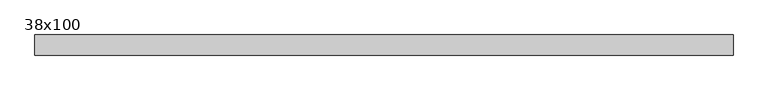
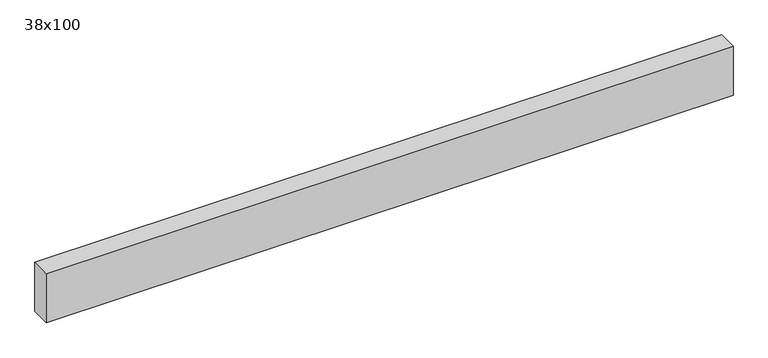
"""IFC4 building model written with IfcOpenShell, lengths in millimetres: beam geometry, Poutre - Bois de construction de dimensions courantes : 38x100."""

import ifcopenshell
import ifcopenshell.guid

model = None  # the IFC model being written
_history = None  # IfcOwnerHistory: only IFC2X3 demands one
_inside = {}  # id of a spatial element -> (the spatial element, [elements in it])
_under = {}  # id of a project, library or spatial element -> (it, [spatial elements below it])
_declared = {}  # id of a project -> (the project, [libraries it declares])
_typed = {}  # id of a type object -> (the type object, [elements of that type])
_made_of = {}  # id of a material, layer set ... -> (it, [elements and type objects made of it])


def new_model(schema):
    """Start an empty IFC model of exactly this schema.

    Asked for "IFC4X3", IfcOpenShell would pick the latest addendum, in which some entities
    have other attributes; the version numbers below select the first issue.
    IFC2X3 requires an IfcOwnerHistory on every rooted entity: one is made here for all.
    """
    global model, _history
    if schema == "IFC4X3":
        model = ifcopenshell.file(schema_version=(4, 3, 0, 0))
    else:
        model = ifcopenshell.file(schema=schema)
    _inside.clear()
    _under.clear()
    _declared.clear()
    _typed.clear()
    _made_of.clear()
    _history = None
    if model.schema == "IFC2X3":
        org = make("IfcOrganization", Name="unknown")
        user = make(
            "IfcPersonAndOrganization",
            ThePerson=make("IfcPerson", FamilyName="unknown"),
            TheOrganization=org,
        )
        app = make(
            "IfcApplication",
            ApplicationDeveloper=org,
            Version="unknown",
            ApplicationFullName="unknown",
            ApplicationIdentifier="unknown",
        )
        _history = make(
            "IfcOwnerHistory",
            OwningUser=user,
            OwningApplication=app,
            ChangeAction="ADDED",
            CreationDate=0,
        )
    return model


def make(cls, **values):
    """One entity of the class cls with the attributes given. An attribute that is None is left unset."""
    return model.create_entity(
        cls, **{name: value for name, value in values.items() if value is not None}
    )


def rooted(cls, **values):
    """An entity with a GlobalId (a new one), such as an element, a storey or a relation."""
    return make(cls, GlobalId=ifcopenshell.guid.new(), OwnerHistory=_history, **values)


def si_unit(unit_type, name, prefix=None):
    """IfcSIUnit, for example si_unit("LENGTHUNIT", "METRE", prefix="MILLI")."""
    return make("IfcSIUnit", UnitType=unit_type, Prefix=prefix, Name=name)


def assignment(units):
    """IfcUnitAssignment: the units of a project."""
    return None if units is None else make("IfcUnitAssignment", Units=units)


def point(xyz):
    """IfcCartesianPoint."""
    return None if xyz is None else make("IfcCartesianPoint", Coordinates=xyz)


def direction(xyz):
    """IfcDirection."""
    return None if xyz is None else make("IfcDirection", DirectionRatios=xyz)


def frame(location, z_axis=None, x_axis=None):
    """IfcAxis2Placement3D, a coordinate frame: its origin and axes. An axis left out is left unset."""
    return make(
        "IfcAxis2Placement3D",
        Location=point(location),
        Axis=direction(z_axis),
        RefDirection=direction(x_axis),
    )


def origin():
    """The frame at (0, 0, 0) with its axes left unset."""
    return frame((0.0, 0.0, 0.0))


def place(relative_to, where):
    """IfcLocalPlacement: puts the frame where relative to a parent placement (None: the world)."""
    return make(
        "IfcLocalPlacement", PlacementRelTo=relative_to, RelativePlacement=where
    )


def context(
    kind, dimensions, precision=None, world=None, true_north=None, identifier=None
):
    """IfcGeometricRepresentationContext, for example the 3D "Model" context."""
    return make(
        "IfcGeometricRepresentationContext",
        ContextIdentifier=identifier,
        ContextType=kind,
        CoordinateSpaceDimension=dimensions,
        Precision=precision,
        WorldCoordinateSystem=world,
        TrueNorth=true_north,
    )


def project(units=None, contexts=None):
    """IfcProject with its units and contexts."""
    return rooted(
        "IfcProject",
        Name="project",
        RepresentationContexts=contexts,
        UnitsInContext=assignment(units),
    )


def spatial(cls, under=None, at=None, **own):
    """A site, building, storey or space (cls), placed at a placement, below another one or the project."""
    s = rooted(cls, ObjectPlacement=at, **own)
    if under is not None:
        _under.setdefault(under.id(), (under, []))[1].append(s)
    return s


def polyline(points):
    """IfcPolyline through the points."""
    return make("IfcPolyline", Points=[point(p) for p in points])


def outline(outer, holes=None, kind="AREA"):
    """IfcArbitraryClosedProfileDef: a profile drawn as a closed curve; with holes, ...WithVoids."""
    if holes is None:
        return make("IfcArbitraryClosedProfileDef", ProfileType=kind, OuterCurve=outer)
    return make(
        "IfcArbitraryProfileDefWithVoids",
        ProfileType=kind,
        OuterCurve=outer,
        InnerCurves=holes,
    )


def extrude(swept, where, along, depth):
    """IfcExtrudedAreaSolid: the profile swept, set in the frame where, extruded along a direction by depth."""
    return make(
        "IfcExtrudedAreaSolid",
        SweptArea=swept,
        Position=where,
        ExtrudedDirection=direction(along),
        Depth=depth,
    )


def shape(context_of_items, identifier, shape_type, items):
    """IfcShapeRepresentation: the items that make up one representation, for example the "Body"."""
    return make(
        "IfcShapeRepresentation",
        ContextOfItems=context_of_items,
        RepresentationIdentifier=identifier,
        RepresentationType=shape_type,
        Items=items,
    )


def source(mapping_origin, context_of_items, identifier, shape_type, items):
    """IfcRepresentationMap: a shape defined once, which mapped items show again and again."""
    return make(
        "IfcRepresentationMap",
        MappingOrigin=mapping_origin,
        MappedRepresentation=shape(context_of_items, identifier, shape_type, items),
    )


def transform(
    local_origin,
    x_axis=None,
    y_axis=None,
    z_axis=None,
    scale=None,
    scale2=None,
    scale3=None,
    uniform=True,
):
    """IfcCartesianTransformationOperator3D, or its non-uniform kind. x_axis, y_axis, z_axis: its Axis1, 2, 3."""
    if uniform:
        return make(
            "IfcCartesianTransformationOperator3D",
            Axis1=direction(x_axis),
            Axis2=direction(y_axis),
            LocalOrigin=point(local_origin),
            Scale=scale,
            Axis3=direction(z_axis),
        )
    return make(
        "IfcCartesianTransformationOperator3DnonUniform",
        Axis1=direction(x_axis),
        Axis2=direction(y_axis),
        LocalOrigin=point(local_origin),
        Scale=scale,
        Axis3=direction(z_axis),
        Scale2=scale2,
        Scale3=scale3,
    )


def mapped(mapping_source, mapping_target):
    """IfcMappedItem: shows the shape of a source again, moved by a transform."""
    return make(
        "IfcMappedItem", MappingSource=mapping_source, MappingTarget=mapping_target
    )


def made_of(thing, what):
    """Note that an element or type object is made of a material, layer set ...; save() writes the relation."""
    if what is not None:
        _made_of.setdefault(what.id(), (what, []))[1].append(thing)
    return thing


def element(
    cls,
    number,
    at=None,
    inside=None,
    cuts=None,
    type_object=None,
    material=None,
    context=None,
    identifier="Body",
    shape_type=None,
    held_by="IfcProductDefinitionShape",
    body=None,
    shapes=None,
    **own,
):
    """One element of the class cls, such as IfcWall. Its Tag is "e" and its number.

    at: its placement. inside: the storey or other place that contains it. cuts: it is an
    opening in that element (IfcRelVoidsElement). A single representation is given by context,
    identifier, shape_type and body (its items); several are given by shapes. held_by: the class
    of the entity that holds the representations. save() writes the other relations.
    """
    e = rooted(cls, Tag="e%d" % number, ObjectPlacement=at, **own)
    if body is not None:
        shapes = [shape(context, identifier, shape_type, body)]
    if shapes is not None:
        e.Representation = make(held_by, Representations=shapes)
    if inside is not None:
        _inside.setdefault(inside.id(), (inside, []))[1].append(e)
    if cuts is not None:
        rooted(
            "IfcRelVoidsElement", RelatingBuildingElement=cuts, RelatedOpeningElement=e
        )
    if type_object is not None:
        _typed.setdefault(type_object.id(), (type_object, []))[1].append(e)
    return made_of(e, material)


def aggregate(whole, parts):
    """IfcRelAggregates: a whole, such as a stair, and the parts it consists of."""
    return rooted("IfcRelAggregates", RelatingObject=whole, RelatedObjects=parts)


def save(model, path):
    """Write the relations noted so far, then the file.

    IfcRelAggregates (storeys below a building ...), IfcRelContainedInSpatialStructure (elements
    in a storey), IfcRelDefinesByType, IfcRelAssociatesMaterial and IfcRelDeclares: one each for
    every whole, place, type object, material and project.
    """
    for whole, parts in _under.values():
        aggregate(whole, parts)
    for where, things in _inside.values():
        rooted(
            "IfcRelContainedInSpatialStructure",
            RelatedElements=things,
            RelatingStructure=where,
        )
    for kind, things in _typed.values():
        rooted("IfcRelDefinesByType", RelatedObjects=things, RelatingType=kind)
    for what, things in _made_of.values():
        rooted("IfcRelAssociatesMaterial", RelatedObjects=things, RelatingMaterial=what)
    for by, libraries in _declared.values():
        rooted("IfcRelDeclares", RelatingContext=by, RelatedDefinitions=libraries)
    model.write(path)


def beam_38x100_70355968(model_context):
    return source(origin(), model_context, "Body", "SweptSolid", [
        extrude(outline(polyline([(711.0, 19.05), (711.0, -19.05), (-611.0, -19.05), (-611.0, 19.05), (711.0, 19.05)])), frame((0.0, 0.0, -50.0), z_axis=(0.0, 0.0, 1.0), x_axis=(1.0, 0.0, 0.0)), (0.0, 0.0, 1.0), 100.0),
    ])


if __name__ == "__main__":
    model = new_model("IFC4")
    model_context = context("Model", 3, world=origin())
    ifc_project = project(units=[si_unit("LENGTHUNIT", "METRE", prefix="MILLI")], contexts=[model_context])
    site = spatial("IfcSite", under=ifc_project)
    building = spatial("IfcBuilding", under=site)
    placement = place(None, origin())
    beam_38x100_shape = beam_38x100_70355968(model_context)
    element("IfcBeam", 1, ObjectType="Poutre - Bois de construction de dimensions courantes : 38x100", at=placement, inside=building, context=model_context, shape_type="MappedRepresentation", body=[
        mapped(beam_38x100_shape, transform((0.0, 0.0, 0.0), x_axis=(1.0, 0.0, 0.0), y_axis=(0.0, 1.0, 0.0), z_axis=(0.0, 0.0, 1.0))),
    ])
    save(model, "model.ifc")
